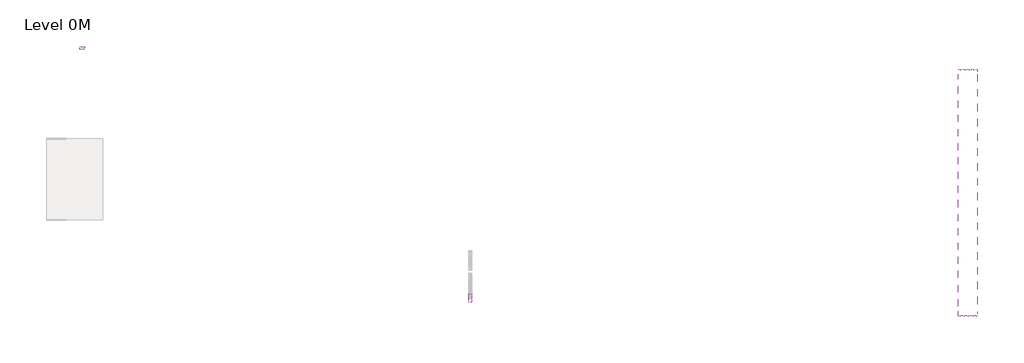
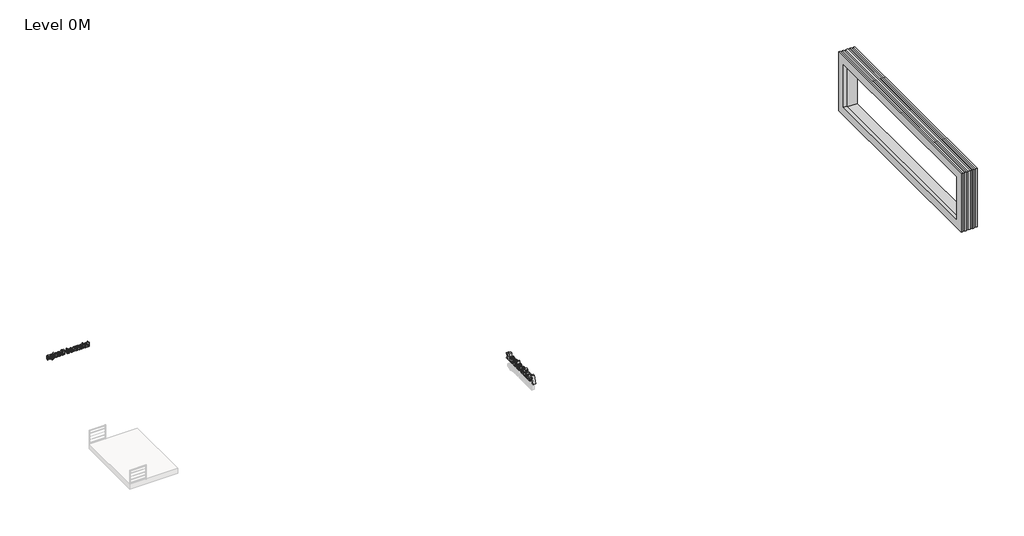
# One storey, part 2 of 2: 3 proxies.
"""IFC4 building model written with IfcOpenShell, lengths in millimetres."""

from ifc_helpers import new_model, si_unit, frame, origin, place, context, project, spatial, polyline, outline, extrude, transform, mapped, element, save
from components import external_facade_external_facade_a6410b1e

model = new_model("IFC4")

# Units and contexts
model_context = context("Model", 3, world=origin())
ifc_project = project(units=[si_unit("LENGTHUNIT", "METRE", prefix="MILLI")], contexts=[model_context])

# Site, building, storey
site = spatial("IfcSite", under=ifc_project)
building = spatial("IfcBuilding", under=site)
storey = spatial("IfcBuildingStorey", under=building, Name="Level 0M", Elevation=1135.0)

# Proxies
placement = place(None, origin())
element("IfcBuildingElementProxy", 1, Name="250", ObjectType="250", at=placement, inside=storey, context=model_context, shape_type="SweptSolid", body=[
    extrude(outline(polyline([(-1917.2229574, 10489.9946591), (-1885.8303605, 10489.9946591), (-1885.8303605, 10339.9946591), (-1917.2229574, 10339.9946591), (-1917.2229574, 10489.9946591)])), frame((0.0, 0.0, 3664.8227843), z_axis=(0.0, 0.0, 1.0), x_axis=(1.0, 0.0, 0.0)), (0.0, 0.0, 1.0), 251.1407754),
    extrude(outline(polyline([(3664.8227843, -1976.0840766), (3849.2542912, -1976.0840766), (3849.2542912, -2007.4766736), (3823.5025515, -2007.4766736), (3836.4857203, -2018.3828419), (3845.7594122, -2031.4809738), (3851.3236274, -2046.7710692), (3853.1783658, -2064.2531282), (3851.6838452, -2079.7271646), (3847.2002834, -2093.8982856), (3840.2871676, -2105.7164947), (3831.5039849, -2114.1317953), (3808.4193897, -2123.543443), (3778.0691251, -2125.198912), (3664.8227843, -2125.198912), (3664.8227843, -2093.8063151), (3773.8384822, -2093.8063151), (3801.6135728, -2090.1888088), (3809.8832535, -2085.1840808), (3816.2981958, -2077.4049095), (3821.7857689, -2055.8531559), (3818.7047572, -2037.4667204), (3809.461722, -2021.7934145), (3791.6041169, -2011.0558588), (3762.679395, -2007.4766736), (3664.8227843, -2007.4766736), (3664.8227843, -1976.0840766)])), frame((0.0, 10339.9946591, 0.0), z_axis=(0.0, 1.0, 0.0), x_axis=(0.0, 0.0, 1.0)), (0.0, 0.0, 1.0), 150.0),
    extrude(outline(polyline([(3664.8227843, -2176.211882), (3817.8616943, -2176.211882), (3817.8616943, -2148.7433597), (3849.2542912, -2148.7433597), (3849.2542912, -2176.211882), (3867.8323319, -2176.211882), (3894.0132673, -2179.52282), (3904.4519189, -2185.8381276), (3912.7139354, -2195.5870004), (3918.0942095, -2209.2292911), (3919.8876343, -2227.224852), (3916.454069, -2255.858334), (3887.0235094, -2251.259809), (3888.4950373, -2233.1722776), (3887.1921219, -2221.2391054), (3883.2833757, -2213.3986204), (3875.8184369, -2209.0530143), (3863.8469437, -2207.6044789), (3849.2542912, -2207.6044789), (3849.2542912, -2242.9211505), (3817.8616943, -2242.9211505), (3817.8616943, -2207.6044789), (3664.8227843, -2207.6044789), (3664.8227843, -2176.211882)])), frame((0.0, 10339.9946591, 0.0), z_axis=(0.0, 1.0, 0.0), x_axis=(0.0, 0.0, 1.0)), (0.0, 0.0, 1.0), 150.0),
    extrude(outline(polyline([(3757.0385377, -2262.5415236), (3780.9240427, -2264.2391457), (3801.5062739, -2269.3320121), (3818.7852314, -2277.8201227), (3832.7609151, -2289.7034775), (3848.0740031, -2314.8727374), (3853.1783658, -2345.0084041), (3851.6244476, -2362.3275987), (3846.9626929, -2377.9874922), (3839.1931018, -2391.9880846), (3828.3156743, -2404.3293759), (3814.6982923, -2414.4020615), (3798.7088379, -2421.596837), (3780.347311, -2425.9137023), (3759.6137117, -2427.3526574), (3727.899218, -2424.8081403), (3703.7569621, -2417.1745889), (3685.6770949, -2404.6742652), (3672.1497673, -2387.5294314), (3663.7114741, -2367.1656301), (3660.8987097, -2345.0084041), (3662.4468797, -2327.4362907), (3667.0913899, -2311.6307773), (3674.8322402, -2297.5918639), (3685.6694307, -2285.3195504), (3699.4190202, -2275.3541637), (3715.8970679, -2268.2360303), (3735.1035738, -2263.9651502), (3757.0385377, -2262.5415236)]), holes=[polyline([(3757.0998514, -2293.9341205), (3728.6886315, -2297.5669552), (3708.4474575, -2308.4654593), (3696.3303443, -2324.8668649), (3692.2913066, -2345.0084041), (3696.3533369, -2365.0579729), (3708.539428, -2381.4287217), (3729.0488493, -2392.3272258), (3758.08087, -2395.9600605), (3785.6643555, -2392.3042332), (3805.6296179, -2381.3367512), (3817.7467311, -2364.9430098), (3821.7857689, -2345.0084041), (3817.7620596, -2324.8668649), (3805.6909316, -2308.4654593), (3785.4957429, -2297.5669552), (3757.0998514, -2293.9341205)])]), frame((0.0, 10339.9946591, 0.0), z_axis=(0.0, 1.0, 0.0), x_axis=(0.0, 0.0, 1.0)), (0.0, 0.0, 1.0), 150.0),
    extrude(outline(polyline([(3664.8227843, -2462.6693289), (3849.2542912, -2462.6693289), (3849.2542912, -2490.1378512), (3821.9697099, -2490.1378512), (3837.7886357, -2500.2852629), (3847.1083129, -2509.635597), (3853.1783658, -2529.2559701), (3850.756476, -2544.8909549), (3843.4908066, -2560.7711943), (3815.347834, -2550.2865575), (3821.7857689, -2528.2136377), (3820.2375988, -2518.8403111), (3815.5930886, -2510.4633315), (3798.4252622, -2499.1509601), (3761.75969, -2494.0619259), (3664.8227843, -2494.0619259), (3664.8227843, -2462.6693289)])), frame((0.0, 10339.9946591, 0.0), z_axis=(0.0, 1.0, 0.0), x_axis=(0.0, 0.0, 1.0)), (0.0, 0.0, 1.0), 150.0),
    extrude(outline(polyline([(3664.8227843, -2580.3915674), (3849.2542912, -2580.3915674), (3849.2542912, -2611.7841643), (3818.9040266, -2611.7841643), (3832.8452214, -2621.2264689), (3843.7667181, -2633.3665747), (3850.8254539, -2647.7906146), (3853.1783658, -2664.0847213), (3850.7794686, -2681.5437877), (3843.5827771, -2695.5386319), (3832.0634721, -2705.9926119), (3816.6967346, -2712.8290857), (3832.6574483, -2724.2717485), (3844.057958, -2737.3238952), (3850.8982639, -2751.9855255), (3853.1783658, -2768.2566396), (3849.3845827, -2791.8547367), (3838.0032335, -2809.3061389), (3818.7277498, -2820.0896799), (3791.2515633, -2823.6841935), (3664.8227843, -2823.6841935), (3664.8227843, -2792.2915966), (3777.7625568, -2792.2915966), (3803.9741489, -2789.3791975), (3816.8806756, -2778.833247), (3821.7857689, -2760.8989997), (3818.6434435, -2743.8921216), (3809.2164674, -2730.0275689), (3792.861047, -2720.8075264), (3768.9333889, -2717.7341789), (3664.8227843, -2717.7341789), (3664.8227843, -2686.341582), (3781.2574357, -2686.341582), (3799.007742, -2684.5251647), (3811.669014, -2679.0759126), (3819.2565802, -2669.4879881), (3821.7857689, -2655.2555534), (3820.0996431, -2643.1614328), (3815.0412656, -2632.017674), (3806.7332639, -2622.8206242), (3795.2982652, -2616.5666303), (3757.8356154, -2611.7841643), (3664.8227843, -2611.7841643), (3664.8227843, -2580.3915674)])), frame((0.0, 10339.9946591, 0.0), z_axis=(0.0, 1.0, 0.0), x_axis=(0.0, 0.0, 1.0)), (0.0, 0.0, 1.0), 150.0),
    extrude(outline(polyline([(3719.7598289, -2999.8996692), (3715.8357543, -3030.6791295), (3692.6438602, -3019.5890202), (3675.3074211, -3001.8923634), (3664.5008875, -2977.9876979), (3660.8987097, -2948.2735626), (3662.4526279, -2928.7949773), (3667.1143825, -2911.4393778), (3674.8839736, -2896.2067639), (3685.7614012, -2883.0971358), (3699.4439289, -2872.5550173), (3715.6288206, -2865.0249327), (3734.3160764, -2860.506882), (3755.5056961, -2859.0008651), (3777.4138353, -2860.5222104), (3796.723808, -2865.0862464), (3813.435614, -2872.6929731), (3827.5492535, -2883.3423904), (3838.7619901, -2896.4175297), (3846.7710877, -2911.3014221), (3851.5765463, -2927.9940676), (3853.1783658, -2946.4954663), (3851.5803784, -2964.4009727), (3846.7864161, -2980.5935287), (3838.7964791, -2995.0731341), (3827.6105671, -3007.839789), (3813.5275845, -3018.2611961), (3796.8464353, -3025.7050583), (3777.5671195, -3030.1713757), (3755.6896371, -3031.6601481), (3747.2283512, -3031.4762071), (3747.2283512, -2890.393462), (3723.7298887, -2895.8273856), (3706.4547634, -2908.4503366), (3695.8321708, -2926.6681596), (3692.2913066, -2948.8866992), (3693.9314471, -2965.5946732), (3698.8518688, -2979.6661595), (3707.35914, -2991.1011582), (3719.7598289, -2999.8996692)]), holes=[polyline([(3778.6209481, -2890.393462), (3778.6209481, -3000.2675512), (3795.2062947, -2996.0215799), (3807.0704891, -2987.6982497), (3818.1069489, -2969.3961205), (3821.7857689, -2946.3728389), (3818.8503771, -2925.21196), (3810.0442019, -2907.7145726), (3796.3176049, -2895.5514741), (3778.6209481, -2890.393462)])]), frame((0.0, 10339.9946591, 0.0), z_axis=(0.0, 1.0, 0.0), x_axis=(0.0, 0.0, 1.0)), (0.0, 0.0, 1.0), 150.0),
    extrude(outline(polyline([(3664.8227843, -3176.8509089), (3694.4372849, -3176.8509089), (3679.7641582, -3167.4584217), (3669.2833535, -3156.0809046), (3662.9948706, -3142.7183575), (3660.8987097, -3127.3707806), (3663.9337361, -3107.0759572), (3673.0388155, -3088.4979164), (3687.5778185, -3072.7709611), (3706.9146159, -3061.0293941), (3730.2674584, -3053.7177394), (3756.8545967, -3051.2805212), (3783.1121741, -3053.5261342), (3806.8252344, -3060.2629733), (3826.6448769, -3071.4833741), (3841.222201, -3087.1796726), (3850.1893246, -3106.1639164), (3853.1783658, -3127.2481532), (3851.0400517, -3142.6072265), (3844.6251094, -3156.1882035), (3834.7919303, -3167.6998443), (3822.3989055, -3176.8509089), (3915.9635596, -3176.8509089), (3915.9635596, -3208.2435058), (3664.8227843, -3208.2435058), (3664.8227843, -3176.8509089)]), holes=[polyline([(3756.9772241, -3082.6731181), (3728.5813326, -3086.2139823), (3708.3861439, -3096.836575), (3696.3150159, -3112.2722903), (3692.2913066, -3130.2525229), (3696.1310749, -3148.2250912), (3707.6503799, -3163.2699319), (3727.0638193, -3173.4556647), (3754.5859911, -3176.8509089), (3784.6756726, -3173.394351), (3805.5376474, -3163.0246773), (3817.7237385, -3147.5966261), (3821.7857689, -3128.9649359), (3817.8846869, -3110.8007624), (3806.1814409, -3095.91687), (3786.0782227, -3085.9840561), (3756.9772241, -3082.6731181)])]), frame((0.0, 10339.9946591, 0.0), z_axis=(0.0, 1.0, 0.0), x_axis=(0.0, 0.0, 1.0)), (0.0, 0.0, 1.0), 150.0),
    extrude(outline(polyline([(3664.8227843, -3357.3583412), (3915.9635596, -3357.3583412), (3915.9635596, -3443.9945511), (3912.3460534, -3488.8148408), (3905.3716239, -3508.8337527), (3894.3811493, -3525.7256677), (3875.2512855, -3543.0927635), (3851.4615832, -3555.4627956), (3823.4718947, -3562.8664208), (3791.7420726, -3565.3342958), (3764.7870523, -3563.6634984), (3741.0663278, -3558.6511062), (3720.8711391, -3551.0175548), (3704.4927261, -3541.4832798), (3681.7146992, -3518.5519688), (3669.1147409, -3488.5389293), (3664.8227843, -3448.1638803), (3664.8227843, -3357.3583412)]), holes=[polyline([(3696.2153812, -3388.7509381), (3696.2153812, -3444.3011194), (3700.7525925, -3484.7068252), (3713.5671486, -3508.0060182), (3727.1557898, -3518.9121865), (3744.7451477, -3527.1052251), (3766.4118644, -3532.2325805), (3792.2325819, -3533.9416989), (3826.4456075, -3530.5924399), (3851.7068378, -3520.5446629), (3869.0586053, -3505.6990916), (3879.5432421, -3487.9564495), (3883.3140326, -3469.8995749), (3884.5709627, -3443.4427281), (3884.5709627, -3388.7509381), (3696.2153812, -3388.7509381)])]), frame((0.0, 10339.9946591, 0.0), z_axis=(0.0, 1.0, 0.0), x_axis=(0.0, 0.0, 1.0)), (0.0, 0.0, 1.0), 150.0),
    extrude(outline(polyline([(3719.7598289, -3733.7016223), (3715.8357543, -3764.4810825), (3692.6438602, -3753.3909732), (3675.3074211, -3735.6943164), (3664.5008875, -3711.7896509), (3660.8987097, -3682.0755156), (3662.4526279, -3662.5969304), (3667.1143825, -3645.2413308), (3674.8839736, -3630.008717), (3685.7614012, -3616.8990888), (3699.4439289, -3606.3569704), (3715.6288206, -3598.8268858), (3734.3160764, -3594.308835), (3755.5056961, -3592.8028181), (3777.4138353, -3594.3241635), (3796.723808, -3598.8881995), (3813.435614, -3606.4949261), (3827.5492535, -3617.1443435), (3838.7619901, -3630.2194827), (3846.7710877, -3645.1033751), (3851.5765463, -3661.7960206), (3853.1783658, -3680.2974193), (3851.5803784, -3698.2029258), (3846.7864161, -3714.3954817), (3838.7964791, -3728.8750871), (3827.6105671, -3741.641742), (3813.5275845, -3752.0631491), (3796.8464353, -3759.5070114), (3777.5671195, -3763.9733287), (3755.6896371, -3765.4621012), (3747.2283512, -3765.2781602), (3747.2283512, -3624.195415), (3723.7298887, -3629.6293387), (3706.4547634, -3642.2522896), (3695.8321708, -3660.4701126), (3692.2913066, -3682.6886523), (3693.9314471, -3699.3966262), (3698.8518688, -3713.4681125), (3707.35914, -3724.9031112), (3719.7598289, -3733.7016223)]), holes=[polyline([(3778.6209481, -3624.195415), (3778.6209481, -3734.0695043), (3795.2062947, -3729.8235329), (3807.0704891, -3721.5002028), (3818.1069489, -3703.1980735), (3821.7857689, -3680.174792), (3818.8503771, -3659.013913), (3810.0442019, -3641.5165256), (3796.3176049, -3629.3534272), (3778.6209481, -3624.195415)])]), frame((0.0, 10339.9946591, 0.0), z_axis=(0.0, 1.0, 0.0), x_axis=(0.0, 0.0, 1.0)), (0.0, 0.0, 1.0), 150.0),
    extrude(outline(polyline([(3719.7598289, -3785.0824743), (3723.6839035, -3816.4750712), (3710.2562107, -3821.4261497), (3700.3847105, -3831.00641), (3694.3146576, -3845.2771657), (3692.2913066, -3864.2997306), (3694.146045, -3883.0923691), (3699.7102601, -3896.3054641), (3707.7730072, -3904.1229565), (3717.1233413, -3906.7287873), (3725.1247746, -3904.1076281), (3731.2254844, -3896.2441505), (3740.1772796, -3863.9318486), (3755.5363529, -3816.6590122), (3763.2542106, -3804.6951831), (3773.4706002, -3796.0269636), (3785.5340639, -3790.7616526), (3798.7931442, -3789.0065489), (3822.1843077, -3794.6474061), (3840.0572413, -3810.0371363), (3849.3462617, -3829.9947345), (3853.1783658, -3857.0034043), (3851.6378599, -3877.4361835), (3847.0163424, -3895.2018182), (3839.7660014, -3909.4879023), (3830.3390253, -3919.4820298), (3818.0379711, -3926.1039057), (3802.1653958, -3930.273235), (3798.2413212, -3898.8806381), (3808.1204856, -3894.9182425), (3815.5624318, -3887.0777574), (3820.2299346, -3875.282541), (3821.7857689, -3859.455951), (3820.2989125, -3841.4297332), (3815.8383433, -3829.4122547), (3809.4004084, -3822.652423), (3801.9814548, -3820.3991458), (3792.8457186, -3824.1392794), (3785.9172744, -3835.8501896), (3779.2340848, -3862.8895162), (3764.4574913, -3908.9667361), (3757.3910913, -3921.1374988), (3747.7188605, -3930.3652055), (3735.4101421, -3936.1823396), (3720.4342792, -3938.1213843), (3704.9525786, -3935.8451144), (3690.3905829, -3929.0163049), (3677.8902593, -3917.8955387), (3668.5935747, -3902.7433991), (3662.8224259, -3884.4412698), (3660.8987097, -3863.8705349), (3664.6081864, -3832.2173549), (3675.7366168, -3809.1174313), (3694.1613734, -3793.6970443), (3719.7598289, -3785.0824743)])), frame((0.0, 10339.9946591, 0.0), z_axis=(0.0, 1.0, 0.0), x_axis=(0.0, 0.0, 1.0)), (0.0, 0.0, 1.0), 150.0),
    extrude(outline(polyline([(-4004.8306527, 10489.9946591), (-3973.4380558, 10489.9946591), (-3973.4380558, 10339.9946591), (-4004.8306527, 10339.9946591), (-4004.8306527, 10489.9946591)])), frame((0.0, 0.0, 3884.5709627), z_axis=(0.0, 0.0, 1.0), x_axis=(1.0, 0.0, 0.0)), (0.0, 0.0, 1.0), 31.3925969),
    extrude(outline(polyline([(-4004.8306527, 10489.9946591), (-3973.4380558, 10489.9946591), (-3973.4380558, 10339.9946591), (-4004.8306527, 10339.9946591), (-4004.8306527, 10489.9946591)])), frame((0.0, 0.0, 3664.8227843), z_axis=(0.0, 0.0, 1.0), x_axis=(1.0, 0.0, 0.0)), (0.0, 0.0, 1.0), 184.4315069),
    extrude(outline(polyline([(3649.1264858, -4044.0713989), (3645.2024112, -4075.4639958), (3635.3922247, -4078.9282179), (3628.6477214, -4085.6420643), (3623.405403, -4098.8398309), (3621.6579635, -4116.1149563), (3623.6353292, -4134.5397129), (3629.5674264, -4148.2433172), (3639.0710446, -4157.7469354), (3651.7629734, -4163.5717336), (3688.367232, -4165.7177119), (3670.7088962, -4143.6141354), (3664.8227843, -4116.6667793), (3666.5357348, -4099.4548836), (3671.6745864, -4084.3008279), (3680.2393391, -4071.2046121), (3692.2299929, -4060.1662362), (3722.3656597, -4045.1520522), (3757.9582427, -4040.1473243), (3783.3037793, -4042.3929373), (3806.6106366, -4049.1297763), (3826.3613012, -4060.1202509), (3841.03826, -4075.1267706), (3850.1433393, -4093.6358335), (3853.1783658, -4115.1339376), (3851.4615832, -4129.8147285), (3846.3112352, -4143.1389545), (3837.727322, -4155.1066156), (3825.7098435, -4165.7177119), (3849.2542912, -4165.7177119), (3849.2542912, -4197.1103089), (3690.0227009, -4197.1103089), (3653.257494, -4194.9643306), (3629.0462602, -4188.5263956), (3612.989744, -4177.4362863), (3600.6886898, -4161.3337848), (3592.8711974, -4140.5714447), (3590.2653666, -4115.5018196), (3593.9365223, -4086.293522), (3604.9499896, -4063.2932331), (3623.3364251, -4048.5396323), (3649.1264858, -4044.0713989)]), holes=[polyline([(3760.104221, -4071.5399212), (3731.3097907, -4074.8891802), (3711.5131408, -4084.9369572), (3700.0398211, -4100.0431116), (3696.2153812, -4118.5675029), (3700.0168285, -4136.9539384), (3711.4211703, -4152.136735), (3730.9649013, -4162.3224677), (3759.184516, -4165.7177119), (3786.4001195, -4162.222833), (3805.9974999, -4151.7381961), (3817.8387016, -4136.3331376), (3821.7857689, -4118.0769936), (3817.9000153, -4100.1504105), (3806.2427546, -4085.1208982), (3786.936614, -4074.9351654), (3760.104221, -4071.5399212)])]), frame((0.0, 10339.9946591, 0.0), z_axis=(0.0, 1.0, 0.0), x_axis=(0.0, 0.0, 1.0)), (0.0, 0.0, 1.0), 150.0),
    extrude(outline(polyline([(3664.8227843, -4244.1992042), (3849.2542912, -4244.1992042), (3849.2542912, -4275.5918012), (3823.5025515, -4275.5918012), (3836.4857203, -4286.4979695), (3845.7594122, -4299.5961014), (3851.3236274, -4314.8861968), (3853.1783658, -4332.3682558), (3851.6838452, -4347.8422922), (3847.2002834, -4362.0134132), (3840.2871676, -4373.8316223), (3831.5039849, -4382.2469229), (3808.4193897, -4391.6585706), (3778.0691251, -4393.3140396), (3664.8227843, -4393.3140396), (3664.8227843, -4361.9214427), (3773.8384822, -4361.9214427), (3801.6135728, -4358.3039364), (3809.8832535, -4353.2992084), (3816.2981958, -4345.5200371), (3821.7857689, -4323.9682835), (3818.7047572, -4305.581848), (3809.461722, -4289.9085421), (3791.6041169, -4279.1709864), (3762.679395, -4275.5918012), (3664.8227843, -4275.5918012), (3664.8227843, -4244.1992042)])), frame((0.0, 10339.9946591, 0.0), z_axis=(0.0, 1.0, 0.0), x_axis=(0.0, 0.0, 1.0)), (0.0, 0.0, 1.0), 150.0),
])
element("IfcBuildingElementProxy", 2, Name="450mm", ObjectType="450mm", at=placement, inside=storey, context=model_context, shape_type="SweptSolid", body=[
    extrude(outline(polyline([(-2435.0797036, 2423.5962711), (-2526.9713705, 2423.5962711), (-2562.9537333, 2525.6222111), (-2736.3750576, 2525.6222111), (-2771.9019474, 2423.5962711), (-2865.046165, 2423.5962711), (-2697.4321207, 2882.7130011), (-2604.2879031, 2882.7130011), (-2435.0797036, 2423.5962711)]), holes=[polyline([(-2590.9653195, 2605.7854496), (-2650.0629343, 2773.3994939), (-2708.3634714, 2605.7854496), (-2590.9653195, 2605.7854496)])]), frame((17505.7942367, 0.0, 0.0), z_axis=(1.0, 0.0, 0.0), x_axis=(0.0, 1.0, 0.0)), (0.0, 0.0, 1.0), 150.0),
    extrude(outline(polyline([(-2180.0148536, 2423.5962711), (-2180.0148536, 2472.7873493), (-2200.1552979, 2449.287792), (-2225.7329506, 2431.3962453), (-2254.8405185, 2420.0805893), (-2285.5707089, 2416.3087039), (-2315.945061, 2420.0094216), (-2343.0741684, 2431.1115747), (-2365.050738, 2448.9177202), (-2379.967477, 2472.7304152), (-2388.5075948, 2504.6846891), (-2391.3543007, 2546.9155713), (-2391.3543007, 2758.8243596), (-2303.903495, 2758.8243596), (-2303.903495, 2603.8496896), (-2302.722112, 2546.4743319), (-2299.1779632, 2516.6835545), (-2292.4882043, 2502.3361567), (-2281.8699912, 2491.2909377), (-2267.593761, 2484.2453406), (-2249.9299508, 2481.8968082), (-2228.9924288, 2485.0281847), (-2210.3607386, 2494.4223142), (-2195.643269, 2508.4708079), (-2186.4484089, 2525.565277), (-2181.6232424, 2557.6334191), (-2180.0148536, 2616.6029321), (-2180.0148536, 2758.8243596), (-2092.5640479, 2758.8243596), (-2092.5640479, 2423.5962711), (-2180.0148536, 2423.5962711)])), frame((17505.7942367, 0.0, 0.0), z_axis=(1.0, 0.0, 0.0), x_axis=(0.0, 1.0, 0.0)), (0.0, 0.0, 1.0), 150.0),
    extrude(outline(polyline([(-1844.786765, 2758.8243596), (-1844.786765, 2693.2362553), (-1910.3748693, 2693.2362553), (-1910.3748693, 2549.4206725), (-1908.3821752, 2498.5785049), (-1899.3296503, 2486.62234), (-1882.1355466, 2481.8968082), (-1841.1429814, 2490.3230577), (-1837.4991979, 2428.1510005), (-1871.232663, 2419.2692781), (-1909.1223187, 2416.3087039), (-1932.4083731, 2418.3583322), (-1953.3031945, 2424.507217), (-1970.3691965, 2433.9013465), (-1982.1687925, 2445.686709), (-1989.9545331, 2460.9735197), (-1994.9789691, 2480.8719941), (-1997.825675, 2544.5243383), (-1997.825675, 2693.2362553), (-2041.5510779, 2693.2362553), (-2041.5510779, 2758.8243596), (-1997.825675, 2758.8243596), (-1997.825675, 2824.4124639), (-1910.3748693, 2875.4254339), (-1910.3748693, 2758.8243596), (-1844.786765, 2758.8243596)])), frame((17505.7942367, 0.0, 0.0), z_axis=(1.0, 0.0, 0.0), x_axis=(0.0, 1.0, 0.0)), (0.0, 0.0, 1.0), 150.0),
    extrude(outline(polyline([(-1815.6364964, 2595.9927813), (-1810.2419887, 2639.3623459), (-1794.0584656, 2681.3370246), (-1782.1485597, 2700.7551173), (-1767.9968729, 2717.7321597), (-1751.6034053, 2732.2681518), (-1732.9681567, 2744.3630936), (-1691.1500468, 2760.6747185), (-1644.7202733, 2766.1119268), (-1608.7343521, 2763.0303676), (-1576.1573613, 2753.7856902), (-1546.9893009, 2738.3778944), (-1521.2301707, 2716.8069803), (-1500.1823388, 2690.524768), (-1485.1481732, 2660.9830773), (-1476.1276739, 2628.1819084), (-1473.1208407, 2592.1212612), (-1476.1596993, 2555.7723851), (-1485.276275, 2522.6758704), (-1500.4705678, 2492.8317173), (-1521.7425778, 2466.2399257), (-1547.6191345, 2444.3950162), (-1576.6270678, 2428.7915094), (-1608.7663776, 2419.4294053), (-1644.0370639, 2416.3087039), (-1688.630712, 2421.5039422), (-1731.0893308, 2437.0896571), (-1750.5465657, 2448.6935421), (-1767.5271665, 2462.7242439), (-1782.0311331, 2479.1817624), (-1794.0584656, 2498.0660978), (-1803.4988541, 2519.2598234), (-1810.2419887, 2542.6455124), (-1815.6364964, 2595.9927813)]), holes=[polyline([(-1728.1856907, 2591.2103154), (-1726.6733782, 2566.2838467), (-1722.1364407, 2544.4531707), (-1714.5748781, 2525.7182874), (-1703.9886904, 2510.0791968), (-1691.1820722, 2497.7494018), (-1676.9592178, 2488.9424054), (-1661.3201272, 2483.6582075), (-1644.2648004, 2481.8968082), (-1627.2165903, 2483.6582075), (-1611.59885, 2488.9424054), (-1597.4115794, 2497.7494018), (-1584.6547785, 2510.0791968), (-1574.1184082, 2525.760988), (-1566.5924295, 2544.6239731), (-1562.0768422, 2566.668152), (-1560.5716464, 2591.8935248), (-1562.0768422, 2616.5210893), (-1566.5924295, 2638.1382624), (-1574.1184082, 2656.7450439), (-1584.6547785, 2672.3414339), (-1597.4115794, 2684.6712289), (-1611.59885, 2693.4782254), (-1627.2165903, 2698.7624232), (-1644.2648004, 2700.5238225), (-1661.3201272, 2698.7624232), (-1676.9592178, 2693.4782254), (-1691.1820722, 2684.6712289), (-1703.9886904, 2672.3414339), (-1714.5748781, 2656.7023433), (-1722.1364407, 2637.96746), (-1726.6733782, 2616.136784), (-1728.1856907, 2591.2103154)])]), frame((17505.7942367, 0.0, 0.0), z_axis=(1.0, 0.0, 0.0), x_axis=(0.0, 1.0, 0.0)), (0.0, 0.0, 1.0), 150.0),
    extrude(outline(polyline([(-1108.7424836, 2423.5962711), (-1196.1932893, 2423.5962711), (-1196.1932893, 2471.8764034), (-1217.5293502, 2447.3520319), (-1242.3668593, 2430.0298264), (-1269.0547272, 2419.7389846), (-1295.9418646, 2416.3087039), (-1322.4553718, 2419.212344), (-1346.9975352, 2427.9232641), (-1369.5683547, 2442.4414642), (-1390.1678304, 2462.7669445), (-1407.3299087, 2488.2947798), (-1419.588536, 2518.4200451), (-1426.9437124, 2553.1427405), (-1429.3954379, 2592.462866), (-1426.9472708, 2632.4448505), (-1419.6027695, 2667.3312315), (-1407.3619341, 2697.1220089), (-1390.2247645, 2721.8171827), (-1369.3441766, 2741.1961333), (-1345.8730863, 2755.0382408), (-1319.8114937, 2763.3435053), (-1291.1593986, 2766.1119268), (-1264.642333, 2763.2438706), (-1239.9756263, 2754.6397019), (-1217.1592784, 2740.2994209), (-1196.1932893, 2720.2230274), (-1196.1932893, 2882.7130011), (-1108.7424836, 2882.7130011), (-1108.7424836, 2423.5962711)]), holes=[polyline([(-1341.9446322, 2597.5869366), (-1338.3008486, 2549.9900137), (-1327.3694979, 2517.6514345), (-1315.7905216, 2502.0087855), (-1302.1192164, 2490.8354648), (-1286.3555824, 2484.1314724), (-1268.4996196, 2481.8968082), (-1253.9814194, 2483.5728063), (-1240.6019016, 2488.6008006), (-1228.3610662, 2496.9807912), (-1217.2589131, 2508.7127779), (-1208.0427027, 2523.7754106), (-1201.4596953, 2542.1473389), (-1196.1932893, 2588.8190824), (-1201.3031264, 2639.9316871), (-1207.6904228, 2659.2430283), (-1216.6326378, 2674.3910622), (-1227.5746637, 2685.8241448), (-1239.9613928, 2693.9906324), (-1253.7928251, 2698.890525), (-1269.0689607, 2700.5238225), (-1283.9287656, 2698.9083169), (-1297.5360199, 2694.0618001), (-1309.8907236, 2685.984272), (-1320.9928766, 2674.6757328), (-1330.1592697, 2660.1646494), (-1336.7066933, 2642.4794889), (-1341.9446322, 2597.5869366)])]), frame((17505.7942367, 0.0, 0.0), z_axis=(1.0, 0.0, 0.0), x_axis=(0.0, 1.0, 0.0)), (0.0, 0.0, 1.0), 150.0),
    extrude(outline(polyline([(-831.8149322, 2525.6222111), (-744.3641265, 2511.0470768), (-753.8151901, 2489.2591014), (-765.6574867, 2470.2395475), (-779.8910163, 2453.9884151), (-796.5157788, 2440.5057042), (-815.4534899, 2429.9195166), (-836.6258652, 2422.357954), (-860.0329046, 2417.8210164), (-885.6746081, 2416.3087039), (-925.2794042, 2419.8742031), (-959.3758242, 2430.5707006), (-987.9638684, 2448.3981964), (-1011.0435366, 2473.3566905), (-1025.0920303, 2497.6889093), (-1035.1266686, 2525.0244028), (-1041.1474517, 2555.3631711), (-1043.1543793, 2588.7052141), (-1040.4927093, 2628.0182228), (-1032.5076992, 2662.8334362), (-1019.1993491, 2693.1508542), (-1000.5676588, 2718.9704768), (-977.8651792, 2739.5948612), (-952.3444606, 2754.3265643), (-924.0055033, 2763.1655862), (-892.848307, 2766.1119268), (-858.2252463, 2763.0873017), (-827.4594721, 2754.0134266), (-800.5509845, 2738.8903015), (-777.4997833, 2717.7179262), (-759.1314134, 2690.2970315), (-746.2714194, 2656.4283479), (-738.9198014, 2616.1118753), (-737.0765593, 2569.3476139), (-955.7035736, 2569.3476139), (-950.095563, 2532.5112394), (-935.0934228, 2504.898192), (-912.9745178, 2487.6471542), (-886.0162128, 2481.8968082), (-867.6549597, 2484.4873106), (-852.425083, 2492.2588177), (-840.4404511, 2505.7806708), (-831.8149322, 2525.6222111)]), holes=[polyline([(-824.5273651, 2620.3605839), (-829.8507051, 2654.9338273), (-843.9988335, 2680.084474), (-864.5520502, 2695.4139854), (-889.0906552, 2700.5238225), (-914.995679, 2695.1435483), (-936.0043687, 2679.0027258), (-949.7824253, 2653.5247078), (-954.2232865, 2620.3605839), (-824.5273651, 2620.3605839)])]), frame((17505.7942367, 0.0, 0.0), z_axis=(1.0, 0.0, 0.0), x_axis=(0.0, 1.0, 0.0)), (0.0, 0.0, 1.0), 150.0),
    extrude(outline(polyline([(-707.9262908, 2518.3346439), (-620.4754851, 2532.9097782), (-612.1488703, 2510.8762744), (-598.1003766, 2494.8777872), (-577.846064, 2485.142053), (-550.9019925, 2481.8968082), (-521.6663227, 2484.9997177), (-500.6861002, 2494.308446), (-492.1459824, 2504.4427191), (-489.2992765, 2517.5375663), (-490.8080306, 2526.5900911), (-495.334293, 2533.9345923), (-505.6678355, 2539.9411418), (-523.9152204, 2545.4352842), (-608.3769849, 2567.8103927), (-636.4099214, 2578.272037), (-654.9775608, 2588.2497412), (-671.7660089, 2603.1166628), (-683.7577576, 2620.6167875), (-690.9528068, 2640.750115), (-693.3511565, 2663.5166456), (-691.2944115, 2684.3474161), (-685.1241764, 2703.4559296), (-674.8404513, 2720.842186), (-660.4432361, 2736.5061853), (-641.719028, 2749.4586972), (-618.4543239, 2758.7104914), (-590.6491238, 2764.2615679), (-558.3034279, 2766.1119268), (-527.5091866, 2764.6174062), (-500.9423037, 2760.1338444), (-478.602779, 2752.6612413), (-460.4906126, 2742.1995971), (-445.7375592, 2728.8058458), (-433.4753735, 2712.5369215), (-423.7040554, 2693.3928242), (-416.4236051, 2671.3735539), (-503.8744108, 2656.7984196), (-510.3079661, 2675.5012775), (-520.7269098, 2689.2508671), (-535.757517, 2697.7055836), (-556.0260631, 2700.5238225), (-580.9347399, 2698.1325895), (-597.5879695, 2690.9588906), (-603.8222555, 2683.1019823), (-605.9003508, 2673.1954457), (-603.8222555, 2664.6268609), (-597.5879695, 2657.3677608), (-572.6650592, 2646.9203501), (-520.2145027, 2632.88609), (-464.0062944, 2615.2080462), (-443.4068188, 2604.9812552), (-427.8104287, 2593.8292848), (-416.4520721, 2580.8838896), (-408.3389603, 2565.6184292), (-403.4710932, 2548.0329034), (-401.8484708, 2528.1273123), (-404.2005615, 2505.9906154), (-411.2568338, 2485.4694241), (-423.0172876, 2466.5637385), (-439.481923, 2449.2735584), (-460.5582219, 2434.8514346), (-486.1536665, 2424.5499176), (-516.2682567, 2418.3690073), (-550.9019925, 2416.3087039), (-582.6320883, 2418.0238442), (-610.8678526, 2423.1692652), (-635.6092854, 2431.7449668), (-656.8563867, 2443.750949), (-674.6732073, 2458.7032718), (-689.1237982, 2476.1179952), (-700.2081594, 2495.9951193), (-707.9262908, 2518.3346439)])), frame((17505.7942367, 0.0, 0.0), z_axis=(1.0, 0.0, 0.0), x_axis=(0.0, 1.0, 0.0)), (0.0, 0.0, 1.0), 150.0),
    extrude(outline(polyline([(-321.6852322, 2423.5962711), (-321.6852322, 2882.7130011), (-234.2344265, 2882.7130011), (-234.2344265, 2640.7429983), (-128.5647029, 2758.8243596), (-26.5387629, 2758.8243596), (-138.9267125, 2635.6189276), (-19.2511958, 2423.5962711), (-106.7020015, 2423.5962711), (-195.1776214, 2573.7884752), (-234.2344265, 2530.9740182), (-234.2344265, 2423.5962711), (-321.6852322, 2423.5962711)])), frame((17505.7942367, 0.0, 0.0), z_axis=(1.0, 0.0, 0.0), x_axis=(0.0, 1.0, 0.0)), (0.0, 0.0, 1.0), 150.0),
])
external_facade_external_facade_shape = external_facade_external_facade_a6410b1e(model_context)
element("IfcBuildingElementProxy", 3, Name="External Facade : External Facade", ObjectType="External Facade : External Facade", at=placement, inside=storey, context=model_context, shape_type="MappedRepresentation", body=[
    mapped(external_facade_external_facade_shape, transform((0.0, 0.0, 0.0), x_axis=(1.0, 0.0, 0.0), y_axis=(0.0, 1.0, 0.0), z_axis=(0.0, 0.0, 1.0))),
])

save(model, "model.ifc")
